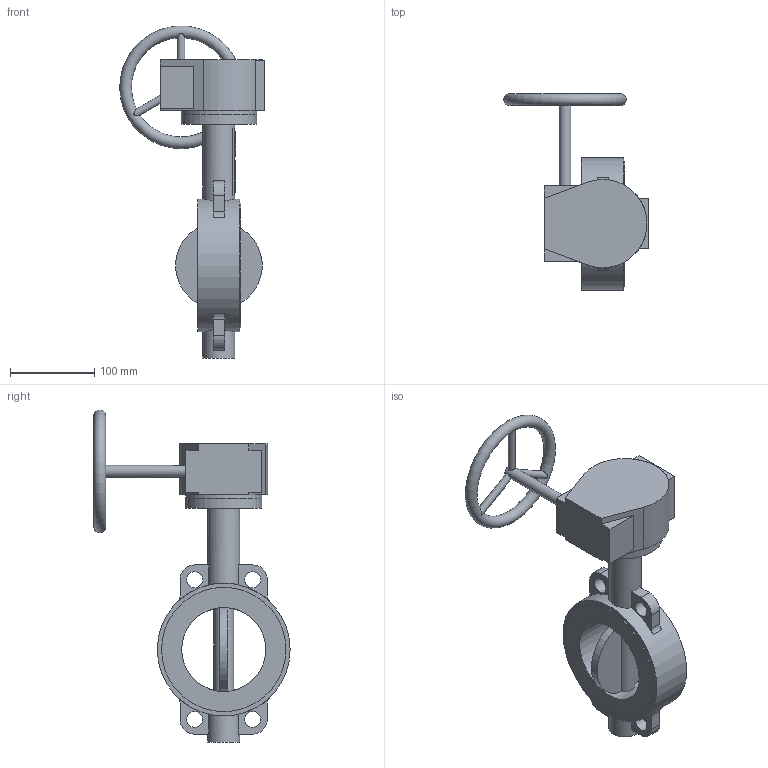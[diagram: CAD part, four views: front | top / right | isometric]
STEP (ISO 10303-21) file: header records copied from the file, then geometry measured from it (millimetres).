
FILE_DESCRIPTION(('STEP AP203'), '1');
FILE_NAME('青蜮铕 017W.ZS DN100 PN10_16 疱潴牝铕', '', ('UNSPECIFIED'), ('UNSPECIFIED'), 'ASCON STEP Converter 1.6', 'ASCON Math Kernel', '');
FILE_SCHEMA(('CONFIG_CONTROL_DESIGN'));
Length unit declared in the file: millimetre
Bounding box: 171.97 x 233.5 x 394.97 mm (x, y, z)
Volume: 775614.2 mm3; surface area: 206502.7 mm2
Topology: 1 solids, 2 shells, 659 faces, 1921 edges, 1236 vertices
Faces by surface type: cylinder 465, plane 193, torus 1
Full cylindrical faces by diameter (mm): 6.7 x4, 9 x3, 10 x4, 14 x1, 15.9 x1, 19 x4, 38 x2, 55 x1, 90 x2, 100 x1, 148 x2, 158 x1
Entity records: 29204 total; most frequent: CARTESIAN_POINT 5634, DIRECTION 4171, ORIENTED_EDGE 3723, EDGE_CURVE 1893, AXIS2_PLACEMENT_3D 1642, VERTEX_POINT 1235, CIRCLE 982, LINE 887
